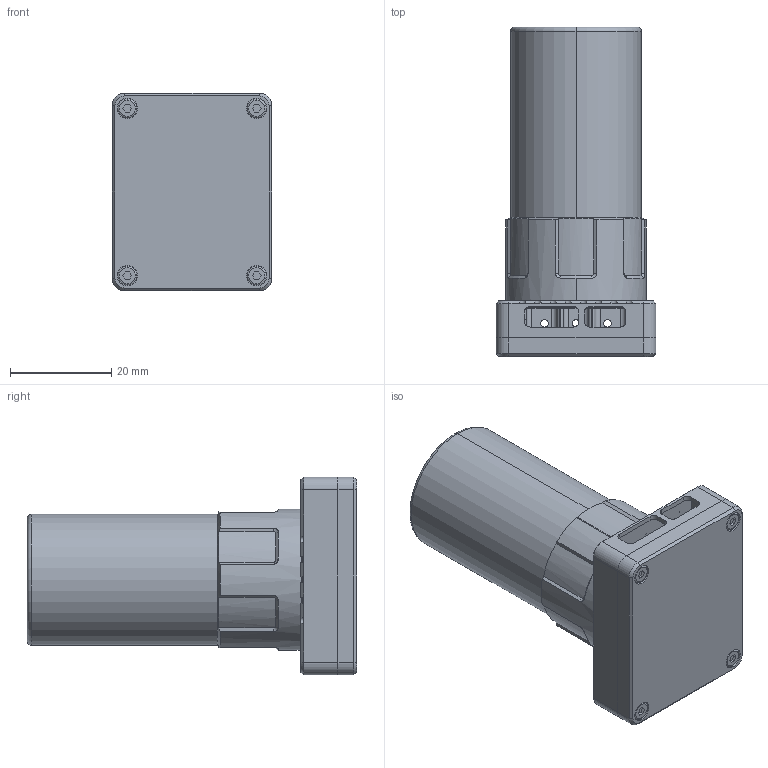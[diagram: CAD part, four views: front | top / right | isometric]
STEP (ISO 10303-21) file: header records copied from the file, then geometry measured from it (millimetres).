
FILE_DESCRIPTION (( 'STEP AP214' ), '1' );
FILE_NAME ('982-CNC耀倰.STEP', '2026-06-02T13:16:41', ( '' ), ( '' ), 'SwSTEP 2.0', 'SolidWorks 2024', '' );
FILE_SCHEMA (( 'AUTOMOTIVE_DESIGN' ));
Length unit declared in the file: millimetre
Products named in the file (5): M2-6螺丝; GNSS _RTK_Antenna_Standard; 868上盖; 868下盖; 982-CNC模型
Assembly tree (7 placements, depth 2):
  982-CNC模型
    868上盖
    868下盖
    M2-6螺丝  x4
    GNSS _RTK_Antenna_Standard
Bounding box: 31.5 x 64.95 x 39 mm (x, y, z)
Volume: 33469.2 mm3; surface area: 15187 mm2
Topology: 40 solids, 40 shells, 1013 faces, 2596 edges, 1688 vertices
Faces by surface type: plane 529, cylinder 310, bspline 141, cone 17, torus 16
Entity records: 44667 total; most frequent: CARTESIAN_POINT 20250, ORIENTED_EDGE 4988, DIRECTION 4068, EDGE_CURVE 2494, VERTEX_POINT 1622, LINE 1528, VECTOR 1528, AXIS2_PLACEMENT_3D 1270
